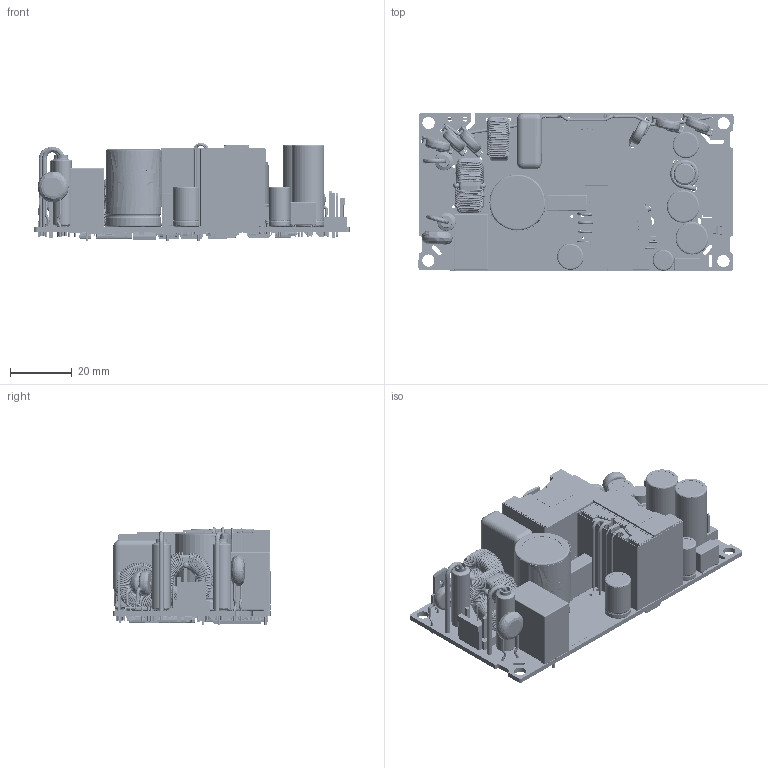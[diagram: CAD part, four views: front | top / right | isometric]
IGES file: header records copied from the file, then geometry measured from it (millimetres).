
Start section: SolidWorks IGES file using analytic representation for surfaces
Global section: file name: C:\pdm-wip\CUS-150M.IGS; native system: SolidWorks 2016; preprocessor: SolidWorks 2016; author: keith; date: 170608.110006; units: millimetre
Bounding box: 101.68 x 50.96 x 31.76 mm (x, y, z)
Surface area: 75418.4 mm2 (no closed solid volume)
Topology: 0 solids, 0 shells, 9169 faces, 58740 edges, 58483 vertices
Faces by surface type: bspline 7101, revolution 2068
